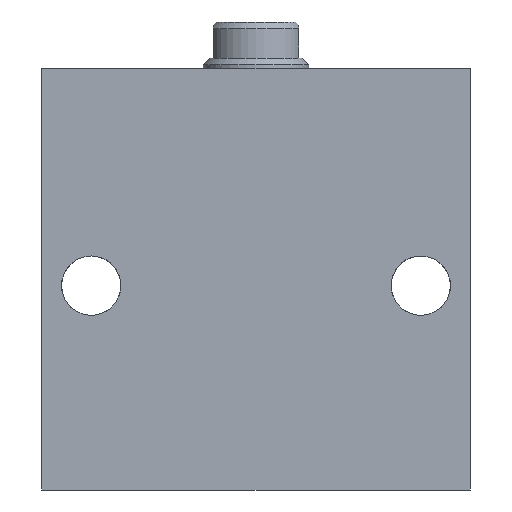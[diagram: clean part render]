
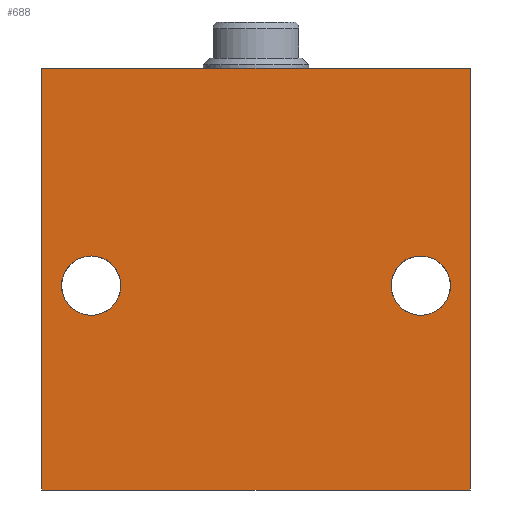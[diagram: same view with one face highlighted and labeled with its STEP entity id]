
A CAD part, front view. The second image highlights one B-rep face of the part: STEP entity #688.
In plain terms, the highlighted planar face has unit normal (0, -1, 0).
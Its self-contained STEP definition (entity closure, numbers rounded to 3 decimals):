
#1 = AXIS2_PLACEMENT_3D ( 'NONE', #948, #947, #927 ) ;
#64 = EDGE_CURVE ( 'NONE', #609, #624, #1421, .T. ) ;
#81 = EDGE_CURVE ( 'NONE', #602, #613, #1475, .T. ) ;
#280 = EDGE_LOOP ( 'NONE', ( #343, #342 ) ) ;
#286 = EDGE_LOOP ( 'NONE', ( #341, #324, #322, #321 ) ) ;
#289 = EDGE_LOOP ( 'NONE', ( #345, #344 ) ) ;
#321 = ORIENTED_EDGE ( 'NONE', *, *, #2137, .T. ) ;
#322 = ORIENTED_EDGE ( 'NONE', *, *, #2143, .F. ) ;
#324 = ORIENTED_EDGE ( 'NONE', *, *, #2128, .F. ) ;
#341 = ORIENTED_EDGE ( 'NONE', *, *, #2142, .T. ) ;
#342 = ORIENTED_EDGE ( 'NONE', *, *, #64, .T. ) ;
#343 = ORIENTED_EDGE ( 'NONE', *, *, #2141, .T. ) ;
#344 = ORIENTED_EDGE ( 'NONE', *, *, #81, .T. ) ;
#345 = ORIENTED_EDGE ( 'NONE', *, *, #2140, .T. ) ;
#602 = VERTEX_POINT ( 'NONE', #1077 ) ;
#609 = VERTEX_POINT ( 'NONE', #1084 ) ;
#613 = VERTEX_POINT ( 'NONE', #1063 ) ;
#624 = VERTEX_POINT ( 'NONE', #1048 ) ;
#688 = ADVANCED_FACE ( 'NONE', ( #2314, #2310, #2313 ), #928, .F. ) ;
#785 = CARTESIAN_POINT ( 'NONE',  ( 32.5, -22.5, 0. ) ) ;
#799 = CARTESIAN_POINT ( 'NONE',  ( -32.5, -22.5, 64. ) ) ;
#809 = CARTESIAN_POINT ( 'NONE',  ( 32.5, -22.5, 64. ) ) ;
#924 = DIRECTION ( 'NONE',  ( 0., 0., 1. ) ) ;
#927 = DIRECTION ( 'NONE',  ( 0., 0., 1. ) ) ;
#928 = PLANE ( 'NONE',  #1296 ) ;
#930 = CARTESIAN_POINT ( 'NONE',  ( -32.5, -22.5, 64. ) ) ;
#932 = DIRECTION ( 'NONE',  ( 0., 1., 0. ) ) ;
#947 = DIRECTION ( 'NONE',  ( 0., 1., 0. ) ) ;
#948 = CARTESIAN_POINT ( 'NONE',  ( 25., -22.5, 31. ) ) ;
#1048 = CARTESIAN_POINT ( 'NONE',  ( 25., -22.5, 35.5 ) ) ;
#1063 = CARTESIAN_POINT ( 'NONE',  ( -25., -22.5, 35.5 ) ) ;
#1077 = CARTESIAN_POINT ( 'NONE',  ( -25., -22.5, 26.5 ) ) ;
#1084 = CARTESIAN_POINT ( 'NONE',  ( 25., -22.5, 26.5 ) ) ;
#1160 = DIRECTION ( 'NONE',  ( 0., 0., 1. ) ) ;
#1161 = DIRECTION ( 'NONE',  ( 0., 1., 0. ) ) ;
#1162 = CARTESIAN_POINT ( 'NONE',  ( -25., -22.5, 31. ) ) ;
#1247 = AXIS2_PLACEMENT_3D ( 'NONE', #1570, #1569, #1566 ) ;
#1248 = AXIS2_PLACEMENT_3D ( 'NONE', #1576, #1573, #1572 ) ;
#1296 = AXIS2_PLACEMENT_3D ( 'NONE', #930, #932, #924 ) ;
#1334 = AXIS2_PLACEMENT_3D ( 'NONE', #1162, #1161, #1160 ) ;
#1393 = VERTEX_POINT ( 'NONE', #809 ) ;
#1412 = VERTEX_POINT ( 'NONE', #799 ) ;
#1421 = CIRCLE ( 'NONE', #1, 4.5 ) ;
#1469 = VERTEX_POINT ( 'NONE', #785 ) ;
#1475 = CIRCLE ( 'NONE', #1334, 4.5 ) ;
#1518 = VERTEX_POINT ( 'NONE', #2059 ) ;
#1565 = DIRECTION ( 'NONE',  ( 1., 0., 0. ) ) ;
#1566 = DIRECTION ( 'NONE',  ( 0., 0., 1. ) ) ;
#1568 = CARTESIAN_POINT ( 'NONE',  ( -32.5, -22.5, 64. ) ) ;
#1569 = DIRECTION ( 'NONE',  ( 0., 1., 0. ) ) ;
#1570 = CARTESIAN_POINT ( 'NONE',  ( 25., -22.5, 31. ) ) ;
#1572 = DIRECTION ( 'NONE',  ( 0., 0., 1. ) ) ;
#1573 = DIRECTION ( 'NONE',  ( 0., 1., 0. ) ) ;
#1574 = DIRECTION ( 'NONE',  ( 1., 0., 0. ) ) ;
#1575 = CARTESIAN_POINT ( 'NONE',  ( -32.5, -22.5, 0. ) ) ;
#1576 = CARTESIAN_POINT ( 'NONE',  ( -25., -22.5, 31. ) ) ;
#1581 = DIRECTION ( 'NONE',  ( 0., 0., -1. ) ) ;
#1582 = CARTESIAN_POINT ( 'NONE',  ( -32.5, -22.5, 64. ) ) ;
#1651 = DIRECTION ( 'NONE',  ( 0., 0., -1. ) ) ;
#1675 = CARTESIAN_POINT ( 'NONE',  ( 32.5, -22.5, 64. ) ) ;
#2059 = CARTESIAN_POINT ( 'NONE',  ( -32.5, -22.5, 0. ) ) ;
#2128 = EDGE_CURVE ( 'NONE', #1393, #1469, #2202, .T. ) ;
#2137 = EDGE_CURVE ( 'NONE', #1412, #1518, #2186, .T. ) ;
#2140 = EDGE_CURVE ( 'NONE', #613, #602, #2181, .T. ) ;
#2141 = EDGE_CURVE ( 'NONE', #624, #609, #2180, .T. ) ;
#2142 = EDGE_CURVE ( 'NONE', #1518, #1469, #2179, .T. ) ;
#2143 = EDGE_CURVE ( 'NONE', #1412, #1393, #2178, .T. ) ;
#2175 = VECTOR ( 'NONE', #1565, 1000. ) ;
#2177 = VECTOR ( 'NONE', #1574, 1000. ) ;
#2178 = LINE ( 'NONE', #1568, #2175 ) ;
#2179 = LINE ( 'NONE', #1575, #2177 ) ;
#2180 = CIRCLE ( 'NONE', #1247, 4.5 ) ;
#2181 = CIRCLE ( 'NONE', #1248, 4.5 ) ;
#2184 = VECTOR ( 'NONE', #1581, 1000. ) ;
#2186 = LINE ( 'NONE', #1582, #2184 ) ;
#2197 = VECTOR ( 'NONE', #1651, 1000. ) ;
#2202 = LINE ( 'NONE', #1675, #2197 ) ;
#2310 = FACE_BOUND ( 'NONE', #280, .T. ) ;
#2313 = FACE_OUTER_BOUND ( 'NONE', #286, .T. ) ;
#2314 = FACE_BOUND ( 'NONE', #289, .T. ) ;
